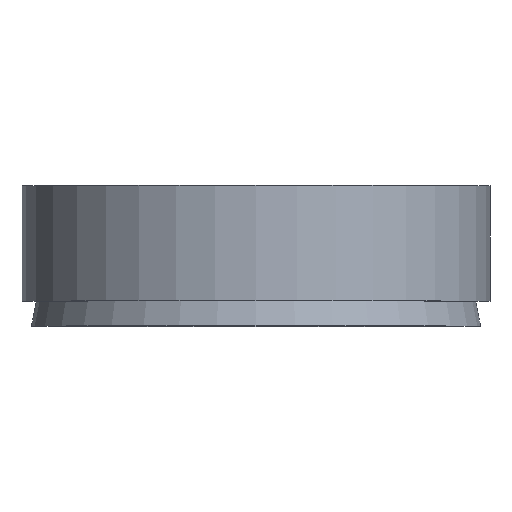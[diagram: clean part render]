
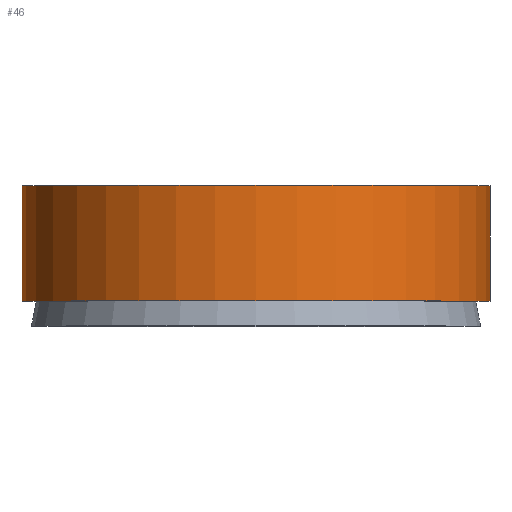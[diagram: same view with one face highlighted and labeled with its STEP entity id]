
A CAD part, top view. The second image highlights one B-rep face of the part: STEP entity #46.
In plain terms, the highlighted cylindrical face has radius 7.5 mm (diameter 15 mm), a full revolution.
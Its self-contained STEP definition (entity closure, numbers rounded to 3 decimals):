
#46 = ADVANCED_FACE( '', ( #93, #94 ), #95, .T. );
#93 = FACE_OUTER_BOUND( '', #132, .T. );
#94 = FACE_OUTER_BOUND( '', #133, .T. );
#95 = CYLINDRICAL_SURFACE( '', #134, 7.5 );
#132 = EDGE_LOOP( '', ( #179 ) );
#133 = EDGE_LOOP( '', ( #180 ) );
#134 = AXIS2_PLACEMENT_3D( '', #181, #182, #183 );
#179 = ORIENTED_EDGE( '', *, *, #189, .F. );
#180 = ORIENTED_EDGE( '', *, *, #198, .T. );
#181 = CARTESIAN_POINT( '', ( 0., -60., 0. ) );
#182 = DIRECTION( '', ( 0., 1., 0. ) );
#183 = DIRECTION( '', ( 0., 0., -1. ) );
#189 = EDGE_CURVE( '', #208, #208, #209, .T. );
#198 = EDGE_CURVE( '', #221, #221, #222, .T. );
#208 = VERTEX_POINT( '', #232 );
#209 = CIRCLE( '', #233, 7.5 );
#221 = VERTEX_POINT( '', #245 );
#222 = CIRCLE( '', #246, 7.5 );
#232 = CARTESIAN_POINT( '', ( 0., 0.8, -7.5 ) );
#233 = AXIS2_PLACEMENT_3D( '', #257, #258, #259 );
#245 = CARTESIAN_POINT( '', ( 0., 4.5, -7.5 ) );
#246 = AXIS2_PLACEMENT_3D( '', #269, #270, #271 );
#257 = CARTESIAN_POINT( '', ( 0., 0.8, 0. ) );
#258 = DIRECTION( '', ( 0., -1., 0. ) );
#259 = DIRECTION( '', ( 0., 0., -1. ) );
#269 = CARTESIAN_POINT( '', ( 0., 4.5, 0. ) );
#270 = DIRECTION( '', ( 0., -1., 0. ) );
#271 = DIRECTION( '', ( 0., 0., -1. ) );
